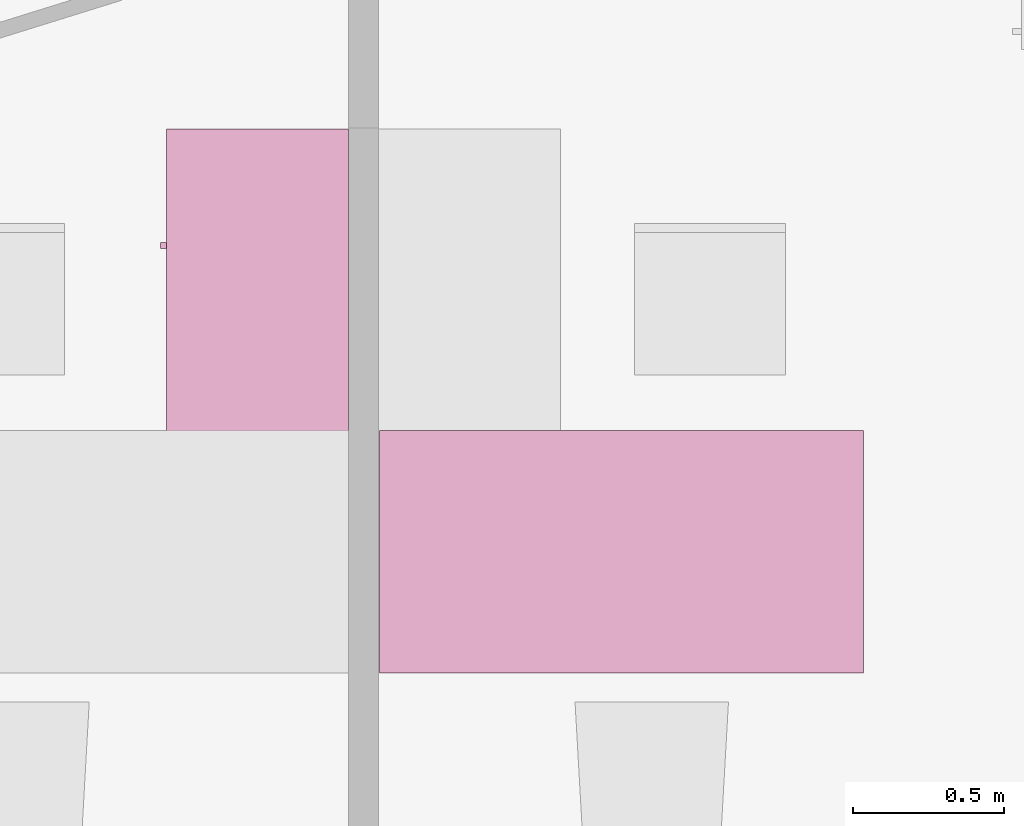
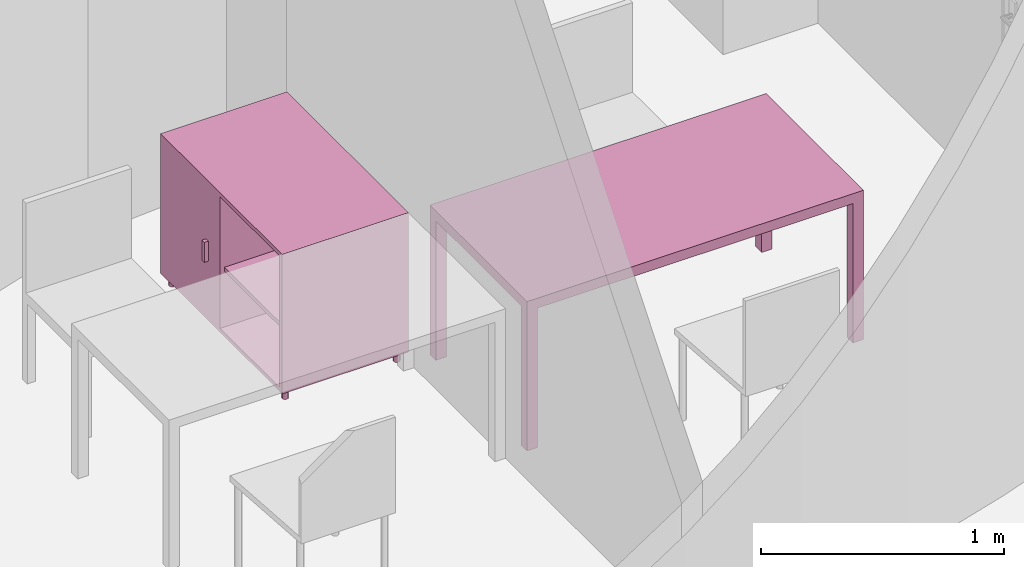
"""IFC4 building model written with IfcOpenShell, lengths in metres."""

from ifc_helpers import new_model, entity, si_unit, converted_unit, derived_unit, frame, origin, place, context, subcontext, project, spatial, faceted_brep, element, save


model = new_model("IFC4")

# Units and contexts
model_context = context("Model", 3, precision=1e-05, world=origin())
body_context = subcontext(model_context, "Body", "Model", "MODEL_VIEW")
ifc_project = project(units=[si_unit("LENGTHUNIT", "METRE"), si_unit("AREAUNIT", "SQUARE_METRE"), si_unit("VOLUMEUNIT", "CUBIC_METRE"), si_unit("MASSUNIT", "GRAM", prefix="KILO"), converted_unit("PLANEANGLEUNIT", "DEGREE", entity("IfcPlaneAngleMeasure", 0.0174532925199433), si_unit("PLANEANGLEUNIT", "RADIAN"), dimensions=[0, 0, 0, 0, 0, 0, 0]), derived_unit("THERMALTRANSMITTANCEUNIT", [(si_unit("POWERUNIT", "WATT"), 1), (si_unit("THERMODYNAMICTEMPERATUREUNIT", "KELVIN"), -1), (si_unit("LENGTHUNIT", "METRE"), -2)]), derived_unit("VOLUMETRICFLOWRATEUNIT", [(si_unit("LENGTHUNIT", "METRE"), 3), (converted_unit("TIMEUNIT", "hour", entity("IfcTimeMeasure", 3600.0), si_unit("TIMEUNIT", "SECOND"), dimensions=[0, 0, 1, 0, 0, 0, 0]), -1), (si_unit("LENGTHUNIT", "METRE"), -1)])], contexts=[model_context])

# Building, storeys
building_placement = place(None, origin())
building = spatial("IfcBuilding", under=ifc_project, at=building_placement, Name="HABITATGE PLURIFAMILIAR", CompositionType="ELEMENT")
storey_1_placement = place(building_placement, frame((0.0, 0.0, 6.25)))
storey_1 = spatial("IfcBuildingStorey", under=building, at=storey_1_placement, Name="PLANTA PRIMERA", CompositionType="ELEMENT", Elevation=6.25)
storey_2_placement = place(storey_1_placement, frame((0.0, 0.0, 3.35)))
storey_2 = spatial("IfcBuildingStorey", under=storey_1, at=storey_2_placement, Name="NOU", CompositionType="PARTIAL")

# Furniture
furniture_1_placement = place(storey_2_placement, frame((413.409662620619, 19.0209258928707, -3.35)))
element("IfcFurniture", 1, at=furniture_1_placement, inside=storey_2, Name="Taula 160X80_P1", context=body_context, shape_type="Brep", body=[
    faceted_brep([(0.05, 0.05, 0.0), (0.0, 0.05, 0.0), (0.0, 0.0, 0.0), (0.05, 0.0, 0.0), (0.05, 0.0, 0.7), (0.0, 0.0, 0.7), (0.0, 0.05, 0.7), (0.05, 0.05, 0.7)], [[[0, 1, 2, 3]], [[4, 5, 6, 7]], [[3, 4, 7, 0]], [[2, 5, 4, 3]], [[1, 6, 5, 2]], [[0, 7, 6, 1]]], orient=[[False], [False], [False], [False], [False], [False]]),
    faceted_brep([(0.05, 0.800069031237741, 0.0), (0.0, 0.800069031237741, 0.0), (0.0, 0.750069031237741, 0.0), (0.05, 0.750069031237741, 0.0), (0.05, 0.750069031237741, 0.7), (0.0, 0.750069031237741, 0.7), (0.0, 0.800069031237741, 0.7), (0.05, 0.800069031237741, 0.7)], [[[0, 1, 2, 3]], [[4, 5, 6, 7]], [[3, 4, 7, 0]], [[2, 5, 4, 3]], [[1, 6, 5, 2]], [[0, 7, 6, 1]]], orient=[[False], [False], [False], [False], [False], [False]]),
    faceted_brep([(1.596945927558, 0.800069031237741, 0.7), (0.0, 0.800069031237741, 0.7), (0.0, 0.0, 0.7), (1.596945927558, 0.0, 0.7), (1.596945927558, 0.0, 0.75), (0.0, 0.0, 0.75), (0.0, 0.800069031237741, 0.75), (1.596945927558, 0.800069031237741, 0.75)], [[[0, 1, 2, 3]], [[4, 5, 6, 7]], [[3, 4, 7, 0]], [[2, 5, 4, 3]], [[1, 6, 5, 2]], [[0, 7, 6, 1]]], orient=[[False], [False], [False], [False], [False], [False]]),
    faceted_brep([(1.596945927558, 0.05, 0.0), (1.546945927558, 0.05, 0.0), (1.546945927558, 0.0, 0.0), (1.596945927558, 0.0, 0.0), (1.596945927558, 0.0, 0.7), (1.546945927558, 0.0, 0.7), (1.546945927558, 0.05, 0.7), (1.596945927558, 0.05, 0.7)], [[[0, 1, 2, 3]], [[4, 5, 6, 7]], [[3, 4, 7, 0]], [[2, 5, 4, 3]], [[1, 6, 5, 2]], [[0, 7, 6, 1]]], orient=[[False], [False], [False], [False], [False], [False]]),
    faceted_brep([(1.596945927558, 0.800069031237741, 0.0), (1.546945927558, 0.800069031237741, 0.0), (1.546945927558, 0.750069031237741, 0.0), (1.596945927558, 0.750069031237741, 0.0), (1.596945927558, 0.750069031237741, 0.7), (1.546945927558, 0.750069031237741, 0.7), (1.546945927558, 0.800069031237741, 0.7), (1.596945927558, 0.800069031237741, 0.7)], [[[0, 1, 2, 3]], [[4, 5, 6, 7]], [[3, 4, 7, 0]], [[2, 5, 4, 3]], [[1, 6, 5, 2]], [[0, 7, 6, 1]]], orient=[[False], [False], [False], [False], [False], [False]]),
])
furniture_2_placement = place(storey_2_placement, frame((412.686608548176, 19.8169688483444, -3.35)))
element("IfcFurniture", 2, at=furniture_2_placement, inside=storey_2, Name="Taula 100X60_P1", context=body_context, shape_type="Brep", body=[
    faceted_brep([(0.620000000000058, 0.0, 0.05), (0.02, 0.0, 0.05), (0.02, 0.0, 0.07), (0.620000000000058, 0.0, 0.07), (0.02, 1.00000000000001, 0.05), (0.02, 1.00000000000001, 0.07), (0.620000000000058, 1.00000000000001, 0.05), (0.620000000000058, 1.00000000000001, 0.07)], [[[0, 1, 2, 3]], [[1, 4, 5, 2]], [[4, 6, 7, 5]], [[6, 0, 3, 7]], [[0, 6, 4, 1]], [[3, 2, 5, 7]]], orient=[[False], [False], [False], [False], [False], [False]]),
    faceted_brep([(0.04, 0.0, 0.35), (0.62, 0.0, 0.35), (0.62, 1.0, 0.35), (0.04, 1.0, 0.35), (0.62, 0.0, 0.37), (0.04, 0.0, 0.37), (0.04, 1.0, 0.37), (0.62, 1.0, 0.37)], [[[0, 1, 2, 3]], [[4, 5, 6, 7]], [[1, 0, 5, 4]], [[2, 1, 4, 7]], [[3, 2, 7, 6]], [[0, 3, 6, 5]]], orient=[[False], [False], [False], [False], [False], [False]]),
    faceted_brep([(0.04, 0.510000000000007, 0.75), (0.04, 0.510000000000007, 0.05), (0.02, 0.510000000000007, 0.05), (0.02, 0.510000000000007, 0.75), (0.04, 1.00000000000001, 0.05), (0.02, 1.00000000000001, 0.05), (0.04, 1.00000000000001, 0.75), (0.02, 1.00000000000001, 0.75)], [[[0, 1, 2, 3]], [[1, 4, 5, 2]], [[4, 6, 7, 5]], [[6, 0, 3, 7]], [[0, 6, 4, 1]], [[3, 2, 5, 7]]], orient=[[False], [False], [False], [False], [False], [False]]),
    faceted_brep([(0.62, 0.0200000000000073, 0.75), (0.620000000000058, 0.0200000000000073, 0.0499999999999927), (0.620000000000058, 0.0, 0.0499999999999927), (0.62, 0.0, 0.75), (0.02, 0.0200000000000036, 0.05), (0.02, 0.0, 0.05), (0.02, 0.0200000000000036, 0.75), (0.02, 0.0, 0.75)], [[[0, 1, 2, 3]], [[1, 4, 5, 2]], [[4, 6, 7, 5]], [[6, 0, 3, 7]], [[0, 6, 4, 1]], [[3, 2, 5, 7]]], orient=[[False], [False], [False], [False], [False], [False]]),
    faceted_brep([(0.62, 0.530000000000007, 0.75), (0.620000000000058, 0.530000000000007, 0.0499999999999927), (0.620000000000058, 0.510000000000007, 0.0499999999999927), (0.62, 0.510000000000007, 0.75), (0.02, 0.530000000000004, 0.05), (0.02, 0.510000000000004, 0.05), (0.02, 0.530000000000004, 0.75), (0.02, 0.510000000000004, 0.75)], [[[0, 1, 2, 3]], [[1, 4, 5, 2]], [[4, 6, 7, 5]], [[6, 0, 3, 7]], [[0, 6, 4, 1]], [[3, 2, 5, 7]]], orient=[[False], [False], [False], [False], [False], [False]]),
    faceted_brep([(0.620000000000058, 0.530000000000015, 0.75000000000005), (0.620000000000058, 0.530000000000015, 0.0499999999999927), (0.620000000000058, 0.510000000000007, 0.0499999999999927), (0.620000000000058, 0.510000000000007, 0.75000000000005), (0.0400000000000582, 0.530000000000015, 0.0499999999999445), (0.0400000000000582, 0.510000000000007, 0.0499999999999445), (0.04, 0.530000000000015, 0.750000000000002), (0.04, 0.510000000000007, 0.750000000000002)], [[[0, 1, 2, 3]], [[1, 4, 5, 2]], [[4, 6, 7, 5]], [[6, 0, 3, 7]], [[0, 6, 4, 1]], [[3, 2, 5, 7]]], orient=[[False], [False], [False], [False], [False], [False]]),
    faceted_brep([(0.62, 1.00000000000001, 0.75), (0.620000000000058, 1.00000000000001, 0.0499999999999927), (0.620000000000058, 0.980000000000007, 0.0499999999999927), (0.62, 0.980000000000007, 0.75), (0.02, 1.0, 0.05), (0.02, 0.980000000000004, 0.05), (0.02, 1.0, 0.75), (0.02, 0.980000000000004, 0.75)], [[[0, 1, 2, 3]], [[1, 4, 5, 2]], [[4, 6, 7, 5]], [[6, 0, 3, 7]], [[0, 6, 4, 1]], [[3, 2, 5, 7]]], orient=[[False], [False], [False], [False], [False], [False]]),
    faceted_brep([(0.620000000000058, 0.0, 0.73), (0.02, 0.0, 0.73), (0.02, 0.0, 0.75), (0.620000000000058, 0.0, 0.75), (0.02, 1.00000000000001, 0.73), (0.02, 1.00000000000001, 0.75), (0.620000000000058, 1.00000000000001, 0.73), (0.620000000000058, 1.00000000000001, 0.75)], [[[0, 1, 2, 3]], [[1, 4, 5, 2]], [[4, 6, 7, 5]], [[6, 0, 3, 7]], [[0, 6, 4, 1]], [[3, 2, 5, 7]]], orient=[[False], [False], [False], [False], [False], [False]]),
    faceted_brep([(0.62, 0.0200000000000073, 0.75), (0.62, 0.0200000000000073, 0.05), (0.6, 0.0200000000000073, 0.05), (0.6, 0.0200000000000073, 0.75), (0.62, 1.00000000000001, 0.05), (0.6, 1.00000000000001, 0.05), (0.62, 1.00000000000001, 0.75), (0.6, 1.00000000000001, 0.75)], [[[0, 1, 2, 3]], [[1, 4, 5, 2]], [[4, 6, 7, 5]], [[6, 0, 3, 7]], [[0, 6, 4, 1]], [[3, 2, 5, 7]]], orient=[[False], [False], [False], [False], [False], [False]]),
    faceted_brep([(0.02, 0.625579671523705, 0.35), (0.0, 0.625579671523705, 0.35), (0.0, 0.605579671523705, 0.35), (0.02, 0.605579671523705, 0.35), (0.02, 0.605579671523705, 0.45), (0.0, 0.605579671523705, 0.45), (0.0, 0.625579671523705, 0.45), (0.02, 0.625579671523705, 0.45)], [[[0, 1, 2, 3]], [[4, 5, 6, 7]], [[3, 4, 7, 0]], [[2, 5, 4, 3]], [[1, 6, 5, 2]], [[0, 7, 6, 1]]], orient=[[False], [False], [False], [False], [False], [False]]),
    faceted_brep([(0.583821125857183, 0.0499366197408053, 0.0), (0.581227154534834, 0.0497096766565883, 0.0), (0.578711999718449, 0.0490357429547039, 0.0), (0.5763520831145, 0.047935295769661, 0.0), (0.574219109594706, 0.0464417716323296, 0.0), (0.57237788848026, 0.0446005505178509, 0.0), (0.570884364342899, 0.0424675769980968, 0.0), (0.569783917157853, 0.0401076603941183, 0.0), (0.569109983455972, 0.0375925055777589, 0.0), (0.568883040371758, 0.0349985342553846, 0.0), (0.569109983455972, 0.0324045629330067, 0.0), (0.569783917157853, 0.0298894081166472, 0.0), (0.570884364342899, 0.0275294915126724, 0.0), (0.57237788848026, 0.0253965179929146, 0.0), (0.574219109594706, 0.0235552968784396, 0.0), (0.5763520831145, 0.0220617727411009, 0.0), (0.578711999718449, 0.0209613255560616, 0.0), (0.581227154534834, 0.0202873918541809, 0.0), (0.583821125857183, 0.0200604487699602, 0.0), (0.586415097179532, 0.0202873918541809, 0.0), (0.588930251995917, 0.0209613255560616, 0.0), (0.591290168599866, 0.0220617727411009, 0.0), (0.59342314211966, 0.0235552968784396, 0.0), (0.595264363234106, 0.0253965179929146, 0.0), (0.596757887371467, 0.0275294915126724, 0.0), (0.597858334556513, 0.0298894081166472, 0.0), (0.598532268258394, 0.0324045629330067, 0.0), (0.598759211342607, 0.0349985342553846, 0.0), (0.598532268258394, 0.0375925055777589, 0.0), (0.597858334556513, 0.0401076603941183, 0.0), (0.596757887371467, 0.0424675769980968, 0.0), (0.595264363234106, 0.0446005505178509, 0.0), (0.59342314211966, 0.0464417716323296, 0.0), (0.591290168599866, 0.047935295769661, 0.0), (0.588930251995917, 0.0490357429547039, 0.0), (0.586415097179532, 0.0497096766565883, 0.0), (0.583821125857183, 0.0499366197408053, 0.05), (0.586415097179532, 0.0497096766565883, 0.05), (0.588930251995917, 0.0490357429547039, 0.05), (0.591290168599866, 0.047935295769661, 0.05), (0.59342314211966, 0.0464417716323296, 0.05), (0.595264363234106, 0.0446005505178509, 0.05), (0.596757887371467, 0.0424675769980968, 0.05), (0.597858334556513, 0.0401076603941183, 0.05), (0.598532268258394, 0.0375925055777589, 0.05), (0.598759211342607, 0.0349985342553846, 0.05), (0.598532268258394, 0.0324045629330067, 0.05), (0.597858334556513, 0.0298894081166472, 0.05), (0.596757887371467, 0.0275294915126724, 0.05), (0.595264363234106, 0.0253965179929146, 0.05), (0.59342314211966, 0.0235552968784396, 0.05), (0.591290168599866, 0.0220617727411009, 0.05), (0.588930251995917, 0.0209613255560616, 0.05), (0.586415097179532, 0.0202873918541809, 0.05), (0.583821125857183, 0.0200604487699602, 0.05), (0.581227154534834, 0.0202873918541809, 0.05), (0.578711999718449, 0.0209613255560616, 0.05), (0.5763520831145, 0.0220617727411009, 0.05), (0.574219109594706, 0.0235552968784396, 0.05), (0.57237788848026, 0.0253965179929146, 0.05), (0.570884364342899, 0.0275294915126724, 0.05), (0.569783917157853, 0.0298894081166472, 0.05), (0.569109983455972, 0.0324045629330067, 0.05), (0.568883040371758, 0.0349985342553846, 0.05), (0.569109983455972, 0.0375925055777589, 0.05), (0.569783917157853, 0.0401076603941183, 0.05), (0.570884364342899, 0.0424675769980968, 0.05), (0.57237788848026, 0.0446005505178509, 0.05), (0.574219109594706, 0.0464417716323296, 0.05), (0.5763520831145, 0.047935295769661, 0.05), (0.578711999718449, 0.0490357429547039, 0.05), (0.581227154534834, 0.0497096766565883, 0.05)], [[[0, 1, 2, 3, 4, 5, 6, 7, 8, 9, 10, 11, 12, 13, 14, 15, 16, 17, 18, 19, 20, 21, 22, 23, 24, 25, 26, 27, 28, 29, 30, 31, 32, 33, 34, 35]], [[36, 37, 38, 39, 40, 41, 42, 43, 44, 45, 46, 47, 48, 49, 50, 51, 52, 53, 54, 55, 56, 57, 58, 59, 60, 61, 62, 63, 64, 65, 66, 67, 68, 69, 70, 71]], [[1, 0, 36, 71]], [[2, 1, 71, 70]], [[3, 2, 70, 69]], [[4, 3, 69, 68]], [[5, 4, 68, 67]], [[6, 5, 67, 66]], [[7, 6, 66, 65]], [[8, 7, 65, 64]], [[9, 8, 64, 63]], [[10, 9, 63, 62]], [[11, 10, 62, 61]], [[12, 11, 61, 60]], [[13, 12, 60, 59]], [[14, 13, 59, 58]], [[15, 14, 58, 57]], [[16, 15, 57, 56]], [[17, 16, 56, 55]], [[18, 17, 55, 54]], [[19, 18, 54, 53]], [[20, 19, 53, 52]], [[21, 20, 52, 51]], [[22, 21, 51, 50]], [[23, 22, 50, 49]], [[24, 23, 49, 48]], [[25, 24, 48, 47]], [[26, 25, 47, 46]], [[27, 26, 46, 45]], [[28, 27, 45, 44]], [[29, 28, 44, 43]], [[30, 29, 43, 42]], [[31, 30, 42, 41]], [[32, 31, 41, 40]], [[33, 32, 40, 39]], [[34, 33, 39, 38]], [[35, 34, 38, 37]], [[0, 35, 37, 36]]], orient=[[False], [False], [False], [False], [False], [False], [False], [False], [False], [False], [False], [False], [False], [False], [False], [False], [False], [False], [False], [False], [False], [False], [False], [False], [False], [False], [False], [False], [False], [False], [False], [False], [False], [False], [False], [False], [False], [False]]),
    faceted_brep([(0.0538211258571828, 0.0499366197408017, 0.0), (0.051227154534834, 0.0497096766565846, 0.0), (0.0487119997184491, 0.0490357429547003, 0.0), (0.0463520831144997, 0.047935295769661, 0.0), (0.0442191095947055, 0.046441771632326, 0.0), (0.0423778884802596, 0.0446005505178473, 0.0), (0.0408843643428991, 0.0424675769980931, 0.0), (0.0397839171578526, 0.0401076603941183, 0.0), (0.0391099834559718, 0.0375925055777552, 0.0), (0.0388830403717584, 0.0349985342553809, 0.0), (0.0391099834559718, 0.0324045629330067, 0.0), (0.0397839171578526, 0.0298894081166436, 0.0), (0.0408843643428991, 0.0275294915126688, 0.0), (0.0423778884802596, 0.0253965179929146, 0.0), (0.0442191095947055, 0.0235552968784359, 0.0), (0.0463520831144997, 0.0220617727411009, 0.0), (0.0487119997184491, 0.0209613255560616, 0.0), (0.051227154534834, 0.0202873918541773, 0.0), (0.0538211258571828, 0.0200604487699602, 0.0), (0.0564150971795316, 0.0202873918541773, 0.0), (0.0589302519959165, 0.0209613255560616, 0.0), (0.0612901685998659, 0.0220617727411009, 0.0), (0.06342314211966, 0.0235552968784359, 0.0), (0.065264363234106, 0.0253965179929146, 0.0), (0.0667578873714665, 0.0275294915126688, 0.0), (0.067858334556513, 0.0298894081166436, 0.0), (0.0685322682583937, 0.0324045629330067, 0.0), (0.0687592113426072, 0.0349985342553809, 0.0), (0.0685322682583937, 0.0375925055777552, 0.0), (0.067858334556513, 0.0401076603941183, 0.0), (0.0667578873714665, 0.0424675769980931, 0.0), (0.065264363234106, 0.0446005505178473, 0.0), (0.06342314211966, 0.046441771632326, 0.0), (0.0612901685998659, 0.047935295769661, 0.0), (0.0589302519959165, 0.0490357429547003, 0.0), (0.0564150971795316, 0.0497096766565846, 0.0), (0.0538211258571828, 0.0499366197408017, 0.05), (0.0564150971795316, 0.0497096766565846, 0.05), (0.0589302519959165, 0.0490357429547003, 0.05), (0.0612901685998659, 0.047935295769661, 0.05), (0.06342314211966, 0.046441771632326, 0.05), (0.065264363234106, 0.0446005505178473, 0.05), (0.0667578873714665, 0.0424675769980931, 0.05), (0.067858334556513, 0.0401076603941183, 0.05), (0.0685322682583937, 0.0375925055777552, 0.05), (0.0687592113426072, 0.0349985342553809, 0.05), (0.0685322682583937, 0.0324045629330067, 0.05), (0.067858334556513, 0.0298894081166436, 0.05), (0.0667578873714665, 0.0275294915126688, 0.05), (0.065264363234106, 0.0253965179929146, 0.05), (0.06342314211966, 0.0235552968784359, 0.05), (0.0612901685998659, 0.0220617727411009, 0.05), (0.0589302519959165, 0.0209613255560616, 0.05), (0.0564150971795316, 0.0202873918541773, 0.05), (0.0538211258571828, 0.0200604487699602, 0.05), (0.051227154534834, 0.0202873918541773, 0.05), (0.0487119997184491, 0.0209613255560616, 0.05), (0.0463520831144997, 0.0220617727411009, 0.05), (0.0442191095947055, 0.0235552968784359, 0.05), (0.0423778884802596, 0.0253965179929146, 0.05), (0.0408843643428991, 0.0275294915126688, 0.05), (0.0397839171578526, 0.0298894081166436, 0.05), (0.0391099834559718, 0.0324045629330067, 0.05), (0.0388830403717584, 0.0349985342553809, 0.05), (0.0391099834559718, 0.0375925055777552, 0.05), (0.0397839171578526, 0.0401076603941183, 0.05), (0.0408843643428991, 0.0424675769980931, 0.05), (0.0423778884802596, 0.0446005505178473, 0.05), (0.0442191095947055, 0.046441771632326, 0.05), (0.0463520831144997, 0.047935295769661, 0.05), (0.0487119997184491, 0.0490357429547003, 0.05), (0.051227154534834, 0.0497096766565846, 0.05)], [[[0, 1, 2, 3, 4, 5, 6, 7, 8, 9, 10, 11, 12, 13, 14, 15, 16, 17, 18, 19, 20, 21, 22, 23, 24, 25, 26, 27, 28, 29, 30, 31, 32, 33, 34, 35]], [[36, 37, 38, 39, 40, 41, 42, 43, 44, 45, 46, 47, 48, 49, 50, 51, 52, 53, 54, 55, 56, 57, 58, 59, 60, 61, 62, 63, 64, 65, 66, 67, 68, 69, 70, 71]], [[1, 0, 36, 71]], [[2, 1, 71, 70]], [[3, 2, 70, 69]], [[4, 3, 69, 68]], [[5, 4, 68, 67]], [[6, 5, 67, 66]], [[7, 6, 66, 65]], [[8, 7, 65, 64]], [[9, 8, 64, 63]], [[10, 9, 63, 62]], [[11, 10, 62, 61]], [[12, 11, 61, 60]], [[13, 12, 60, 59]], [[14, 13, 59, 58]], [[15, 14, 58, 57]], [[16, 15, 57, 56]], [[17, 16, 56, 55]], [[18, 17, 55, 54]], [[19, 18, 54, 53]], [[20, 19, 53, 52]], [[21, 20, 52, 51]], [[22, 21, 51, 50]], [[23, 22, 50, 49]], [[24, 23, 49, 48]], [[25, 24, 48, 47]], [[26, 25, 47, 46]], [[27, 26, 46, 45]], [[28, 27, 45, 44]], [[29, 28, 44, 43]], [[30, 29, 43, 42]], [[31, 30, 42, 41]], [[32, 31, 41, 40]], [[33, 32, 40, 39]], [[34, 33, 39, 38]], [[35, 34, 38, 37]], [[0, 35, 37, 36]]], orient=[[False], [False], [False], [False], [False], [False], [False], [False], [False], [False], [False], [False], [False], [False], [False], [False], [False], [False], [False], [False], [False], [False], [False], [False], [False], [False], [False], [False], [False], [False], [False], [False], [False], [False], [False], [False], [False], [False]]),
    faceted_brep([(0.0550000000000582, 0.97998298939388, 0.0), (0.0524060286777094, 0.979756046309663, 0.0), (0.0498908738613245, 0.979082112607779, 0.0), (0.0475309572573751, 0.97798166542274, 0.0), (0.0453979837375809, 0.976488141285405, 0.0), (0.043556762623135, 0.974646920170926, 0.0), (0.0420632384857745, 0.972513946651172, 0.0), (0.040962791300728, 0.970154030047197, 0.0), (0.0402888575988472, 0.967638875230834, 0.0), (0.0400619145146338, 0.96504490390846, 0.0), (0.0402888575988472, 0.962450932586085, 0.0), (0.040962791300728, 0.959935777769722, 0.0), (0.0420632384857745, 0.957575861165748, 0.0), (0.043556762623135, 0.955442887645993, 0.0), (0.0453979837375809, 0.953601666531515, 0.0), (0.0475309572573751, 0.95210814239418, 0.0), (0.0498908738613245, 0.95100769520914, 0.0), (0.0524060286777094, 0.950333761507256, 0.0), (0.0550000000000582, 0.950106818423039, 0.0), (0.057593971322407, 0.950333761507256, 0.0), (0.0601091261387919, 0.95100769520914, 0.0), (0.0624690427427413, 0.95210814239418, 0.0), (0.0646020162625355, 0.953601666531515, 0.0), (0.0664432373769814, 0.955442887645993, 0.0), (0.0679367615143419, 0.957575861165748, 0.0), (0.0690372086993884, 0.959935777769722, 0.0), (0.0697111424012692, 0.962450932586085, 0.0), (0.0699380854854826, 0.96504490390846, 0.0), (0.0697111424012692, 0.967638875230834, 0.0), (0.0690372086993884, 0.970154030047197, 0.0), (0.0679367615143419, 0.972513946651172, 0.0), (0.0664432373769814, 0.974646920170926, 0.0), (0.0646020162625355, 0.976488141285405, 0.0), (0.0624690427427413, 0.97798166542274, 0.0), (0.0601091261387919, 0.979082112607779, 0.0), (0.057593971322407, 0.979756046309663, 0.0), (0.0550000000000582, 0.97998298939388, 0.05), (0.057593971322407, 0.979756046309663, 0.05), (0.0601091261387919, 0.979082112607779, 0.05), (0.0624690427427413, 0.97798166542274, 0.05), (0.0646020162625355, 0.976488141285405, 0.05), (0.0664432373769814, 0.974646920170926, 0.05), (0.0679367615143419, 0.972513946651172, 0.05), (0.0690372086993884, 0.970154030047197, 0.05), (0.0697111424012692, 0.967638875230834, 0.05), (0.0699380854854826, 0.96504490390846, 0.05), (0.0697111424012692, 0.962450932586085, 0.05), (0.0690372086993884, 0.959935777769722, 0.05), (0.0679367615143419, 0.957575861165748, 0.05), (0.0664432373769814, 0.955442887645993, 0.05), (0.0646020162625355, 0.953601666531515, 0.05), (0.0624690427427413, 0.95210814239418, 0.05), (0.0601091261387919, 0.95100769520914, 0.05), (0.057593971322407, 0.950333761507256, 0.05), (0.0550000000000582, 0.950106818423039, 0.05), (0.0524060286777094, 0.950333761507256, 0.05), (0.0498908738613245, 0.95100769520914, 0.05), (0.0475309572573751, 0.95210814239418, 0.05), (0.0453979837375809, 0.953601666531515, 0.05), (0.043556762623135, 0.955442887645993, 0.05), (0.0420632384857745, 0.957575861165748, 0.05), (0.040962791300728, 0.959935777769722, 0.05), (0.0402888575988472, 0.962450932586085, 0.05), (0.0400619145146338, 0.96504490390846, 0.05), (0.0402888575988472, 0.967638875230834, 0.05), (0.040962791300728, 0.970154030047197, 0.05), (0.0420632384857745, 0.972513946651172, 0.05), (0.043556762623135, 0.974646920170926, 0.05), (0.0453979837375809, 0.976488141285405, 0.05), (0.0475309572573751, 0.97798166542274, 0.05), (0.0498908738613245, 0.979082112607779, 0.05), (0.0524060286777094, 0.979756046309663, 0.05)], [[[0, 1, 2, 3, 4, 5, 6, 7, 8, 9, 10, 11, 12, 13, 14, 15, 16, 17, 18, 19, 20, 21, 22, 23, 24, 25, 26, 27, 28, 29, 30, 31, 32, 33, 34, 35]], [[36, 37, 38, 39, 40, 41, 42, 43, 44, 45, 46, 47, 48, 49, 50, 51, 52, 53, 54, 55, 56, 57, 58, 59, 60, 61, 62, 63, 64, 65, 66, 67, 68, 69, 70, 71]], [[1, 0, 36, 71]], [[2, 1, 71, 70]], [[3, 2, 70, 69]], [[4, 3, 69, 68]], [[5, 4, 68, 67]], [[6, 5, 67, 66]], [[7, 6, 66, 65]], [[8, 7, 65, 64]], [[9, 8, 64, 63]], [[10, 9, 63, 62]], [[11, 10, 62, 61]], [[12, 11, 61, 60]], [[13, 12, 60, 59]], [[14, 13, 59, 58]], [[15, 14, 58, 57]], [[16, 15, 57, 56]], [[17, 16, 56, 55]], [[18, 17, 55, 54]], [[19, 18, 54, 53]], [[20, 19, 53, 52]], [[21, 20, 52, 51]], [[22, 21, 51, 50]], [[23, 22, 50, 49]], [[24, 23, 49, 48]], [[25, 24, 48, 47]], [[26, 25, 47, 46]], [[27, 26, 46, 45]], [[28, 27, 45, 44]], [[29, 28, 44, 43]], [[30, 29, 43, 42]], [[31, 30, 42, 41]], [[32, 31, 41, 40]], [[33, 32, 40, 39]], [[34, 33, 39, 38]], [[35, 34, 38, 37]], [[0, 35, 37, 36]]], orient=[[False], [False], [False], [False], [False], [False], [False], [False], [False], [False], [False], [False], [False], [False], [False], [False], [False], [False], [False], [False], [False], [False], [False], [False], [False], [False], [False], [False], [False], [False], [False], [False], [False], [False], [False], [False], [False], [False]]),
    faceted_brep([(0.585033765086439, 0.979647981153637, 0.0), (0.58243979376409, 0.97942103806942, 0.0), (0.579924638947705, 0.978747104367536, 0.0), (0.577564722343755, 0.977646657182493, 0.0), (0.575431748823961, 0.976153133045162, 0.0), (0.573590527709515, 0.974311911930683, 0.0), (0.572097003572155, 0.972178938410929, 0.0), (0.570996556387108, 0.96981902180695, 0.0), (0.570322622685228, 0.967303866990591, 0.0), (0.570095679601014, 0.964709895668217, 0.0), (0.570322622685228, 0.962115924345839, 0.0), (0.570996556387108, 0.959600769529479, 0.0), (0.572097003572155, 0.957240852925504, 0.0), (0.573590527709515, 0.955107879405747, 0.0), (0.575431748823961, 0.953266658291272, 0.0), (0.577564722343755, 0.951773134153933, 0.0), (0.579924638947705, 0.950672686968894, 0.0), (0.58243979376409, 0.949998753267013, 0.0), (0.585033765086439, 0.949771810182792, 0.0), (0.587627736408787, 0.949998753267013, 0.0), (0.590142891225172, 0.950672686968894, 0.0), (0.592502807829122, 0.951773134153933, 0.0), (0.594635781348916, 0.953266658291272, 0.0), (0.596477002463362, 0.955107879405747, 0.0), (0.597970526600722, 0.957240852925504, 0.0), (0.599070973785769, 0.959600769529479, 0.0), (0.59974490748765, 0.962115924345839, 0.0), (0.599971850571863, 0.964709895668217, 0.0), (0.59974490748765, 0.967303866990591, 0.0), (0.599070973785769, 0.96981902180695, 0.0), (0.597970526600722, 0.972178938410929, 0.0), (0.596477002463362, 0.974311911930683, 0.0), (0.594635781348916, 0.976153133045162, 0.0), (0.592502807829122, 0.977646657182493, 0.0), (0.590142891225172, 0.978747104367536, 0.0), (0.587627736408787, 0.97942103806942, 0.0), (0.585033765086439, 0.979647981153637, 0.05), (0.587627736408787, 0.97942103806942, 0.05), (0.590142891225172, 0.978747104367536, 0.05), (0.592502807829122, 0.977646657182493, 0.05), (0.594635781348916, 0.976153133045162, 0.05), (0.596477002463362, 0.974311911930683, 0.05), (0.597970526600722, 0.972178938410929, 0.05), (0.599070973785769, 0.96981902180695, 0.05), (0.59974490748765, 0.967303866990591, 0.05), (0.599971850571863, 0.964709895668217, 0.05), (0.59974490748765, 0.962115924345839, 0.05), (0.599070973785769, 0.959600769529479, 0.05), (0.597970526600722, 0.957240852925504, 0.05), (0.596477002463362, 0.955107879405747, 0.05), (0.594635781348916, 0.953266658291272, 0.05), (0.592502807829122, 0.951773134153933, 0.05), (0.590142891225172, 0.950672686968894, 0.05), (0.587627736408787, 0.949998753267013, 0.05), (0.585033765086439, 0.949771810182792, 0.05), (0.58243979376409, 0.949998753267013, 0.05), (0.579924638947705, 0.950672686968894, 0.05), (0.577564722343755, 0.951773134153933, 0.05), (0.575431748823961, 0.953266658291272, 0.05), (0.573590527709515, 0.955107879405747, 0.05), (0.572097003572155, 0.957240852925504, 0.05), (0.570996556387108, 0.959600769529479, 0.05), (0.570322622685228, 0.962115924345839, 0.05), (0.570095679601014, 0.964709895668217, 0.05), (0.570322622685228, 0.967303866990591, 0.05), (0.570996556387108, 0.96981902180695, 0.05), (0.572097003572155, 0.972178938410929, 0.05), (0.573590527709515, 0.974311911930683, 0.05), (0.575431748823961, 0.976153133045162, 0.05), (0.577564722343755, 0.977646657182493, 0.05), (0.579924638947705, 0.978747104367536, 0.05), (0.58243979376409, 0.97942103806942, 0.05)], [[[0, 1, 2, 3, 4, 5, 6, 7, 8, 9, 10, 11, 12, 13, 14, 15, 16, 17, 18, 19, 20, 21, 22, 23, 24, 25, 26, 27, 28, 29, 30, 31, 32, 33, 34, 35]], [[36, 37, 38, 39, 40, 41, 42, 43, 44, 45, 46, 47, 48, 49, 50, 51, 52, 53, 54, 55, 56, 57, 58, 59, 60, 61, 62, 63, 64, 65, 66, 67, 68, 69, 70, 71]], [[1, 0, 36, 71]], [[2, 1, 71, 70]], [[3, 2, 70, 69]], [[4, 3, 69, 68]], [[5, 4, 68, 67]], [[6, 5, 67, 66]], [[7, 6, 66, 65]], [[8, 7, 65, 64]], [[9, 8, 64, 63]], [[10, 9, 63, 62]], [[11, 10, 62, 61]], [[12, 11, 61, 60]], [[13, 12, 60, 59]], [[14, 13, 59, 58]], [[15, 14, 58, 57]], [[16, 15, 57, 56]], [[17, 16, 56, 55]], [[18, 17, 55, 54]], [[19, 18, 54, 53]], [[20, 19, 53, 52]], [[21, 20, 52, 51]], [[22, 21, 51, 50]], [[23, 22, 50, 49]], [[24, 23, 49, 48]], [[25, 24, 48, 47]], [[26, 25, 47, 46]], [[27, 26, 46, 45]], [[28, 27, 45, 44]], [[29, 28, 44, 43]], [[30, 29, 43, 42]], [[31, 30, 42, 41]], [[32, 31, 41, 40]], [[33, 32, 40, 39]], [[34, 33, 39, 38]], [[35, 34, 38, 37]], [[0, 35, 37, 36]]], orient=[[False], [False], [False], [False], [False], [False], [False], [False], [False], [False], [False], [False], [False], [False], [False], [False], [False], [False], [False], [False], [False], [False], [False], [False], [False], [False], [False], [False], [False], [False], [False], [False], [False], [False], [False], [False], [False], [False]]),
])

save(model, "model.ifc")
